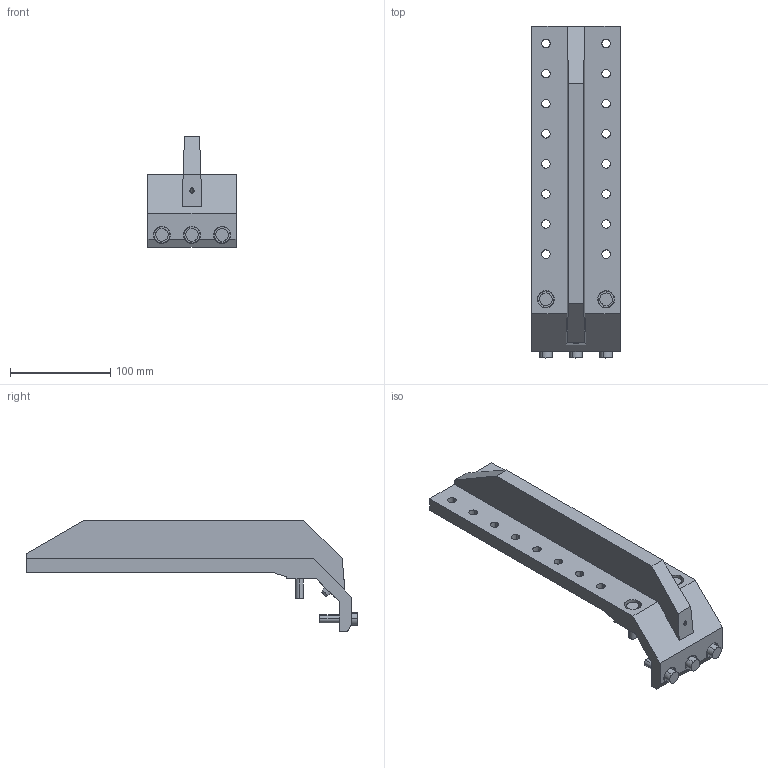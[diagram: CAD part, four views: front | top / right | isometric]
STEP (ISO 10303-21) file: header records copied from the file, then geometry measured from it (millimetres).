
FILE_DESCRIPTION(('STEP AP214'),'1');
FILE_NAME('EGT230_1_1725987_1_SEITENANB_RIP_AU_SW80.CATPart.stp','2015-09-14T13:14:13',('3D-Tool'),(' '),'Spatial InterOp 3D',' ',' ');
FILE_SCHEMA(('automotive_design'));
Length unit declared in the file: millimetre
Products named in the file (7): EGT230_1_1725987_1_SEITENANB_RIP_AU_SW80|EGT230_1_SEITENANB_RIP_AU_SW80|Bohrbearbeitung; EGT230_1_1725987_1_SEITENANB_RIP_AU_SW80|Result of Zentrierstift Vario-Handlingsystem|Solid.35; EGT230_1_1725987_1_SEITENANB_RIP_AU_SW80|Result of Schraube_M8x30.1\PartBody|Solid.36; EGT230_1_1725987_1_SEITENANB_RIP_AU_SW80|Result of Schraube_M8x30.2\PartBody|Solid.37; EGT230_1_1725987_1_SEITENANB_RIP_AU_SW80|Result of Schraube_M8x30.3\PartBody|Solid.38; EGT230_1_1725987_1_SEITENANB_RIP_AU_SW80|Result of Schraube_M8x30.4\PartBody|Solid.39; EGT230_1_1725987_1_SEITENANB_RIP_AU_SW80|Result of Schraube_M8x30.5\PartBody|Solid.40
Bounding box: 88 x 331 x 110.5 mm (x, y, z)
Volume: 615723.9 mm3; surface area: 113686 mm2
Topology: 7 solids, 7 shells, 237 faces, 626 edges, 416 vertices
Faces by surface type: cylinder 180, plane 55, cone 2
Entity records: 9838 total; most frequent: CARTESIAN_POINT 1466, DIRECTION 1464, ORIENTED_EDGE 1252, EDGE_CURVE 626, AXIS2_PLACEMENT_3D 605, VERTEX_POINT 416, CIRCLE 361, EDGE_LOOP 296
